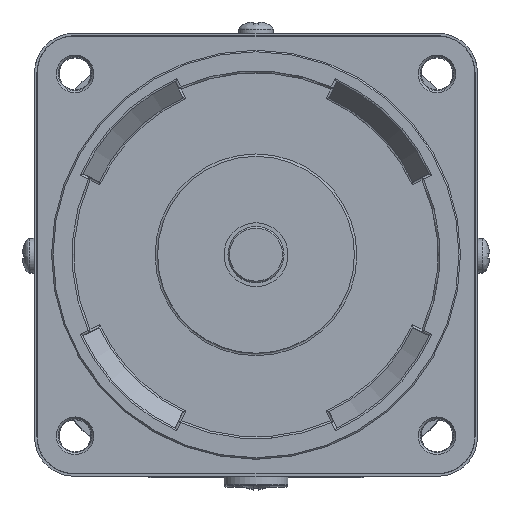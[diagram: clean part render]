
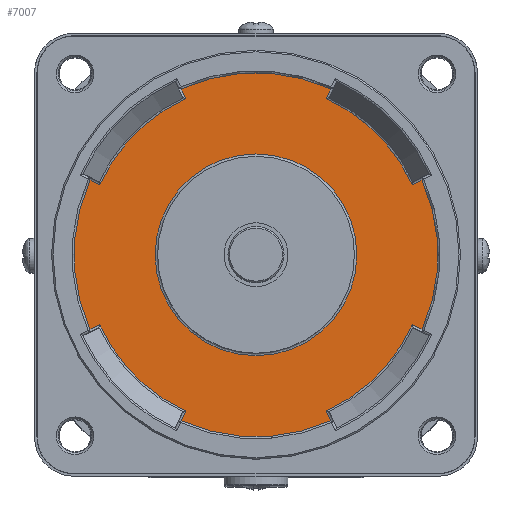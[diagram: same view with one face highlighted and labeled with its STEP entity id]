
A CAD part, top view. The second image highlights one B-rep face of the part: STEP entity #7007.
In plain terms, the highlighted planar face has unit normal (0, 0, 1).
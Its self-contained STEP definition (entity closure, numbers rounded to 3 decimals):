
#6 = ORIENTED_EDGE ( 'NONE', *, *, #8313, .T. ) ;
#98 = VECTOR ( 'NONE', #431, 1000. ) ;
#385 = CARTESIAN_POINT ( 'NONE',  ( 0., 0., -2. ) ) ;
#431 = DIRECTION ( 'NONE',  ( -0.906, 0.423, 0. ) ) ;
#600 = DIRECTION ( 'NONE',  ( -0.906, -0.423, 0. ) ) ;
#654 = DIRECTION ( 'NONE',  ( 1., 0., 0. ) ) ;
#768 = DIRECTION ( 'NONE',  ( 1., 0., 0. ) ) ;
#881 = DIRECTION ( 'NONE',  ( 0., 0., 1. ) ) ;
#1039 = EDGE_CURVE ( 'NONE', #1486, #9280, #11784, .T. ) ;
#1174 = EDGE_CURVE ( 'NONE', #1367, #1778, #4328, .T. ) ;
#1192 = LINE ( 'NONE', #12836, #9874 ) ;
#1295 = DIRECTION ( 'NONE',  ( 0., 0., 1. ) ) ;
#1304 = DIRECTION ( 'NONE',  ( 0., 0., 1. ) ) ;
#1367 = VERTEX_POINT ( 'NONE', #2103 ) ;
#1464 = EDGE_CURVE ( 'NONE', #1778, #9474, #1192, .T. ) ;
#1486 = VERTEX_POINT ( 'NONE', #10709 ) ;
#1560 = VERTEX_POINT ( 'NONE', #4104 ) ;
#1623 = LINE ( 'NONE', #14092, #3925 ) ;
#1644 = VERTEX_POINT ( 'NONE', #9502 ) ;
#1778 = VERTEX_POINT ( 'NONE', #11486 ) ;
#1785 = EDGE_CURVE ( 'NONE', #9971, #1486, #1800, .T. ) ;
#1800 = LINE ( 'NONE', #6199, #5027 ) ;
#1878 = DIRECTION ( 'NONE',  ( 1., 0., 0. ) ) ;
#1948 = CARTESIAN_POINT ( 'NONE',  ( 15.177, -33.73, -2. ) ) ;
#1982 = CARTESIAN_POINT ( 'NONE',  ( 33.73, 15.177, -2. ) ) ;
#2011 = CARTESIAN_POINT ( 'NONE',  ( -33.73, 15.177, -2. ) ) ;
#2103 = CARTESIAN_POINT ( 'NONE',  ( 15.177, 33.73, -2. ) ) ;
#2255 = VECTOR ( 'NONE', #4898, 1000. ) ;
#2335 = FACE_BOUND ( 'NONE', #8502, .T. ) ;
#2461 = LINE ( 'NONE', #10698, #98 ) ;
#2556 = AXIS2_PLACEMENT_3D ( 'NONE', #13140, #4004, #1878 ) ;
#2625 = ORIENTED_EDGE ( 'NONE', *, *, #8331, .T. ) ;
#2628 = AXIS2_PLACEMENT_3D ( 'NONE', #385, #5979, #5898 ) ;
#2682 = DIRECTION ( 'NONE',  ( 1., 0., 0. ) ) ;
#2684 = VERTEX_POINT ( 'NONE', #3452 ) ;
#2731 = LINE ( 'NONE', #13299, #6673 ) ;
#3302 = DIRECTION ( 'NONE',  ( 1., 0., 0. ) ) ;
#3402 = ORIENTED_EDGE ( 'NONE', *, *, #1464, .T. ) ;
#3443 = ORIENTED_EDGE ( 'NONE', *, *, #9583, .T. ) ;
#3452 = CARTESIAN_POINT ( 'NONE',  ( -33.73, -15.177, -2. ) ) ;
#3756 = CIRCLE ( 'NONE', #2556, 36.987 ) ;
#3758 = DIRECTION ( 'NONE',  ( -0.423, 0.906, 0. ) ) ;
#3837 = DIRECTION ( 'NONE',  ( 0., 0., 1. ) ) ;
#3925 = VECTOR ( 'NONE', #3758, 1000. ) ;
#4004 = DIRECTION ( 'NONE',  ( 0., 0., 1. ) ) ;
#4070 = ORIENTED_EDGE ( 'NONE', *, *, #8872, .T. ) ;
#4104 = CARTESIAN_POINT ( 'NONE',  ( -14.242, -31.725, -2. ) ) ;
#4248 = CIRCLE ( 'NONE', #12447, 36.987 ) ;
#4317 = EDGE_CURVE ( 'NONE', #1644, #1644, #14501, .T. ) ;
#4328 = CIRCLE ( 'NONE', #2628, 36.987 ) ;
#4649 = VERTEX_POINT ( 'NONE', #5448 ) ;
#4753 = VERTEX_POINT ( 'NONE', #5271 ) ;
#4898 = DIRECTION ( 'NONE',  ( 0.906, 0.423, 0. ) ) ;
#4904 = ORIENTED_EDGE ( 'NONE', *, *, #9819, .T. ) ;
#4975 = CARTESIAN_POINT ( 'NONE',  ( -14.242, 31.725, -2. ) ) ;
#5012 = DIRECTION ( 'NONE',  ( 1., 0., 0. ) ) ;
#5027 = VECTOR ( 'NONE', #600, 1000. ) ;
#5165 = EDGE_CURVE ( 'NONE', #10925, #11564, #1623, .T. ) ;
#5224 = DIRECTION ( 'NONE',  ( -0.423, -0.906, 0. ) ) ;
#5239 = EDGE_CURVE ( 'NONE', #9280, #1367, #7678, .T. ) ;
#5271 = CARTESIAN_POINT ( 'NONE',  ( 33.73, -15.177, -2. ) ) ;
#5330 = DIRECTION ( 'NONE',  ( 0.423, 0.906, 0. ) ) ;
#5360 = CARTESIAN_POINT ( 'NONE',  ( 31.725, -14.242, -2. ) ) ;
#5448 = CARTESIAN_POINT ( 'NONE',  ( -31.725, 14.242, -2. ) ) ;
#5735 = FACE_OUTER_BOUND ( 'NONE', #7062, .T. ) ;
#5861 = CARTESIAN_POINT ( 'NONE',  ( -31.932, -14.338, -2. ) ) ;
#5875 = ORIENTED_EDGE ( 'NONE', *, *, #1039, .T. ) ;
#5898 = DIRECTION ( 'NONE',  ( 1., 0., 0. ) ) ;
#5979 = DIRECTION ( 'NONE',  ( 0., 0., 1. ) ) ;
#6071 = DIRECTION ( 'NONE',  ( 1., 0., 0. ) ) ;
#6199 = CARTESIAN_POINT ( 'NONE',  ( 31.932, 14.338, -2. ) ) ;
#6383 = CIRCLE ( 'NONE', #9026, 34.775 ) ;
#6397 = CARTESIAN_POINT ( 'NONE',  ( 0., 0., -2. ) ) ;
#6520 = CARTESIAN_POINT ( 'NONE',  ( 0., 0., -2. ) ) ;
#6576 = VECTOR ( 'NONE', #5330, 1000. ) ;
#6632 = CARTESIAN_POINT ( 'NONE',  ( 0., 0., -2. ) ) ;
#6673 = VECTOR ( 'NONE', #5224, 1000. ) ;
#6903 = ORIENTED_EDGE ( 'NONE', *, *, #5165, .T. ) ;
#6964 = AXIS2_PLACEMENT_3D ( 'NONE', #8190, #1304, #6071 ) ;
#7007 = ADVANCED_FACE ( 'NONE', ( #5735, #2335 ), #12610, .T. ) ;
#7037 = CARTESIAN_POINT ( 'NONE',  ( 0., 0., -2. ) ) ;
#7062 = EDGE_LOOP ( 'NONE', ( #4070, #4904, #8436, #5875, #13057, #7108, #3402, #3443, #2625, #9861, #6, #12762, #10488, #7961, #6903, #7591 ) ) ;
#7108 = ORIENTED_EDGE ( 'NONE', *, *, #1174, .T. ) ;
#7440 = DIRECTION ( 'NONE',  ( 0.906, -0.423, 0. ) ) ;
#7591 = ORIENTED_EDGE ( 'NONE', *, *, #12059, .T. ) ;
#7678 = LINE ( 'NONE', #13562, #6576 ) ;
#7961 = ORIENTED_EDGE ( 'NONE', *, *, #8397, .T. ) ;
#8190 = CARTESIAN_POINT ( 'NONE',  ( 0., 0., -2. ) ) ;
#8313 = EDGE_CURVE ( 'NONE', #2684, #14591, #12826, .T. ) ;
#8331 = EDGE_CURVE ( 'NONE', #4649, #14727, #2461, .T. ) ;
#8397 = EDGE_CURVE ( 'NONE', #9540, #10925, #9264, .T. ) ;
#8436 = ORIENTED_EDGE ( 'NONE', *, *, #1785, .T. ) ;
#8502 = EDGE_LOOP ( 'NONE', ( #9075 ) ) ;
#8872 = EDGE_CURVE ( 'NONE', #13332, #4753, #13315, .T. ) ;
#9021 = AXIS2_PLACEMENT_3D ( 'NONE', #10204, #12466, #14799 ) ;
#9026 = AXIS2_PLACEMENT_3D ( 'NONE', #7037, #1295, #5012 ) ;
#9075 = ORIENTED_EDGE ( 'NONE', *, *, #4317, .T. ) ;
#9264 = CIRCLE ( 'NONE', #14320, 36.987 ) ;
#9280 = VERTEX_POINT ( 'NONE', #13583 ) ;
#9474 = VERTEX_POINT ( 'NONE', #4975 ) ;
#9497 = DIRECTION ( 'NONE',  ( 0.423, -0.906, 0. ) ) ;
#9502 = CARTESIAN_POINT ( 'NONE',  ( 20.5, 0., -2. ) ) ;
#9540 = VERTEX_POINT ( 'NONE', #12049 ) ;
#9583 = EDGE_CURVE ( 'NONE', #9474, #4649, #10274, .T. ) ;
#9695 = CARTESIAN_POINT ( 'NONE',  ( 0.211, 0.453, -2. ) ) ;
#9819 = EDGE_CURVE ( 'NONE', #4753, #9971, #4248, .T. ) ;
#9861 = ORIENTED_EDGE ( 'NONE', *, *, #13307, .T. ) ;
#9874 = VECTOR ( 'NONE', #9497, 1000. ) ;
#9883 = CARTESIAN_POINT ( 'NONE',  ( -31.725, -14.242, -2. ) ) ;
#9971 = VERTEX_POINT ( 'NONE', #1982 ) ;
#10204 = CARTESIAN_POINT ( 'NONE',  ( 0., 0., -2. ) ) ;
#10223 = EDGE_CURVE ( 'NONE', #1560, #9540, #2731, .T. ) ;
#10256 = VECTOR ( 'NONE', #7440, 1000. ) ;
#10274 = CIRCLE ( 'NONE', #13159, 34.775 ) ;
#10488 = ORIENTED_EDGE ( 'NONE', *, *, #10223, .T. ) ;
#10560 = CARTESIAN_POINT ( 'NONE',  ( 0., 0., -2. ) ) ;
#10698 = CARTESIAN_POINT ( 'NONE',  ( -0.211, -0.453, -2. ) ) ;
#10709 = CARTESIAN_POINT ( 'NONE',  ( 31.725, 14.242, -2. ) ) ;
#10925 = VERTEX_POINT ( 'NONE', #1948 ) ;
#11000 = DIRECTION ( 'NONE',  ( 0., 0., 1. ) ) ;
#11113 = DIRECTION ( 'NONE',  ( 0., 0., -1. ) ) ;
#11125 = AXIS2_PLACEMENT_3D ( 'NONE', #6520, #11113, #768 ) ;
#11486 = CARTESIAN_POINT ( 'NONE',  ( -15.177, 33.73, -2. ) ) ;
#11564 = VERTEX_POINT ( 'NONE', #12086 ) ;
#11784 = CIRCLE ( 'NONE', #6964, 34.775 ) ;
#12049 = CARTESIAN_POINT ( 'NONE',  ( -15.177, -33.73, -2. ) ) ;
#12059 = EDGE_CURVE ( 'NONE', #11564, #13332, #6383, .T. ) ;
#12086 = CARTESIAN_POINT ( 'NONE',  ( 14.242, -31.725, -2. ) ) ;
#12447 = AXIS2_PLACEMENT_3D ( 'NONE', #13037, #12736, #2682 ) ;
#12466 = DIRECTION ( 'NONE',  ( 0., 0., 1. ) ) ;
#12610 = PLANE ( 'NONE',  #9021 ) ;
#12736 = DIRECTION ( 'NONE',  ( 0., 0., 1. ) ) ;
#12762 = ORIENTED_EDGE ( 'NONE', *, *, #14738, .T. ) ;
#12826 = LINE ( 'NONE', #5861, #2255 ) ;
#12836 = CARTESIAN_POINT ( 'NONE',  ( -14.338, 31.932, -2. ) ) ;
#12900 = DIRECTION ( 'NONE',  ( 1., 0., 0. ) ) ;
#13037 = CARTESIAN_POINT ( 'NONE',  ( 0., 0., -2. ) ) ;
#13057 = ORIENTED_EDGE ( 'NONE', *, *, #5239, .T. ) ;
#13140 = CARTESIAN_POINT ( 'NONE',  ( 0., 0., -2. ) ) ;
#13159 = AXIS2_PLACEMENT_3D ( 'NONE', #6397, #11000, #654 ) ;
#13299 = CARTESIAN_POINT ( 'NONE',  ( 0.453, -0.211, -2. ) ) ;
#13307 = EDGE_CURVE ( 'NONE', #14727, #2684, #3756, .T. ) ;
#13315 = LINE ( 'NONE', #9695, #10256 ) ;
#13332 = VERTEX_POINT ( 'NONE', #5360 ) ;
#13562 = CARTESIAN_POINT ( 'NONE',  ( -0.453, 0.211, -2. ) ) ;
#13583 = CARTESIAN_POINT ( 'NONE',  ( 14.242, 31.725, -2. ) ) ;
#14092 = CARTESIAN_POINT ( 'NONE',  ( 14.338, -31.932, -2. ) ) ;
#14162 = CIRCLE ( 'NONE', #14409, 34.775 ) ;
#14320 = AXIS2_PLACEMENT_3D ( 'NONE', #10560, #3837, #12900 ) ;
#14409 = AXIS2_PLACEMENT_3D ( 'NONE', #6632, #881, #3302 ) ;
#14501 = CIRCLE ( 'NONE', #11125, 20.5 ) ;
#14591 = VERTEX_POINT ( 'NONE', #9883 ) ;
#14727 = VERTEX_POINT ( 'NONE', #2011 ) ;
#14738 = EDGE_CURVE ( 'NONE', #14591, #1560, #14162, .T. ) ;
#14799 = DIRECTION ( 'NONE',  ( 1., 0., 0. ) ) ;
